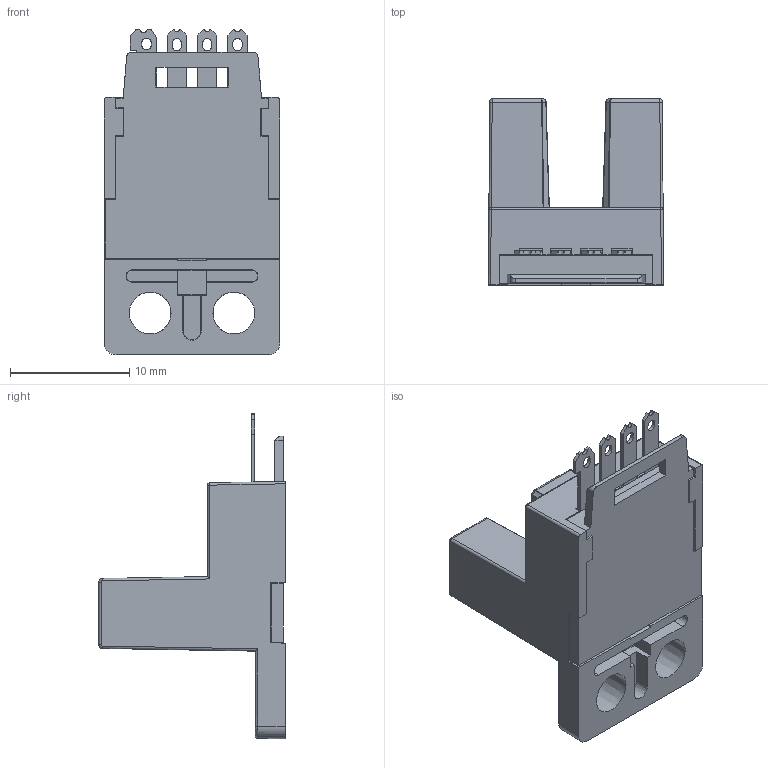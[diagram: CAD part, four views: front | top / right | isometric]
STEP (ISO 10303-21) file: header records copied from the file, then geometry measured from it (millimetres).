
FILE_DESCRIPTION(/* description */ (''),/* implementation_level */ '2;1');
FILE_NAME(/* name */ 'F:\HUAYIFENG\02)HUAYIFENG_3D_MODE\HUAYIFENG_3D_MODE_\X2\69FD578B51497535\X0\\LU68系列\LU684\LU684.stp',/* time_stamp */ '2019-04-03T22:11:58+08:00',/* author */ ('fengjiarun'),/* organization */ (''),/* preprocessor_version */ 'ST-DEVELOPER v16.5',/* originating_system */ 'Autodesk Inventor 2017',/* authorisation */ '');
FILE_SCHEMA (('AUTOMOTIVE_DESIGN { 1 0 10303 214 3 1 1 }'));
Products named in the file (1): 零件337
Bounding box: 14.7 x 15.6 x 27.27 mm (x, y, z)
Volume: 1250.6 mm3; surface area: 3494.8 mm2
Topology: 8 solids, 8 shells, 1391 faces, 3823 edges, 2460 vertices
Faces by surface type: plane 816, bspline 295, cylinder 228, sphere 36, torus 9, cone 7
Full cylindrical faces by diameter (mm): 0.218 x2, 1 x4, 1.5 x2
Entity records: 59749 total; most frequent: CARTESIAN_POINT 26315, ORIENTED_EDGE 7536, DIRECTION 5832, EDGE_CURVE 3768, LINE 2662, VECTOR 2662, VERTEX_POINT 2458, AXIS2_PLACEMENT_3D 1585
